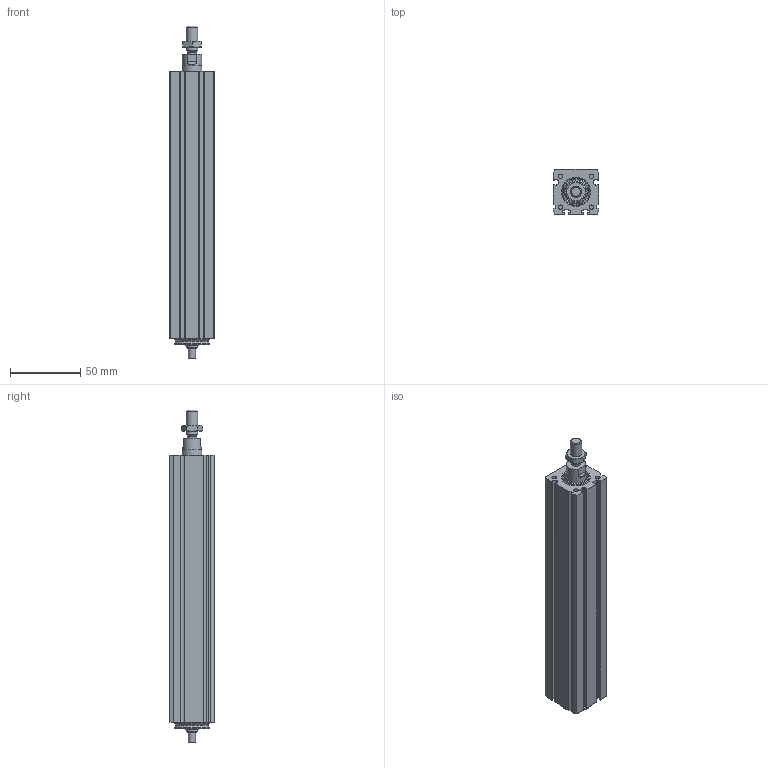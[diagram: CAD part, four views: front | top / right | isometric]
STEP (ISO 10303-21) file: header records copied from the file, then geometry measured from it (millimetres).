
FILE_DESCRIPTION(/* description */ ('STEP AP214'),/* implementation_level */ '2;1');
FILE_NAME(/* name */ 'MCE 32 0802 125 0(0)',/* time_stamp */ '2023-10-05T14:13:17+02:00',/* author */ ('License CC BY-ND 4.0'),/* organization */ ('CADENAS'),/* preprocessor_version */ 'ST-DEVELOPER v19.3',/* originating_system */ 'PARTsolutions',/* authorisation */ ' ');
FILE_SCHEMA (('AUTOMOTIVE_DESIGN {1 0 10303 214 3 1 1}'));
Length unit declared in the file: millimetre
Products named in the file (4): MCE 32 0802 125  0(0); 32_nut; 32(1250)_rod; 32(125)_msc
Assembly tree (3 placements, depth 2):
  MCE 32 0802 125  0(0)
    32_nut
    32(1250)_rod
    32(125)_msc
Bounding box: 32 x 32 x 236 mm (x, y, z)
Volume: 145432.7 mm3; surface area: 60754.4 mm2
Topology: 3 solids, 3 shells, 205 faces, 503 edges, 326 vertices
Faces by surface type: cylinder 89, plane 88, cone 23, torus 5
Full cylindrical faces by diameter (mm): 2.459 x4, 3.242 x4, 5 x1, 6.5 x1, 6.647 x1, 8 x2, 10 x1, 13.8 x1, 14 x2, 17.46 x1, 19.5 x1, 24.5 x2, 25 x2
Entity records: 6017 total; most frequent: CARTESIAN_POINT 1087, DIRECTION 1064, ORIENTED_EDGE 924, EDGE_CURVE 462, AXIS2_PLACEMENT_3D 419, VERTEX_POINT 324, EDGE_LOOP 268, FACE_BOUND 268
